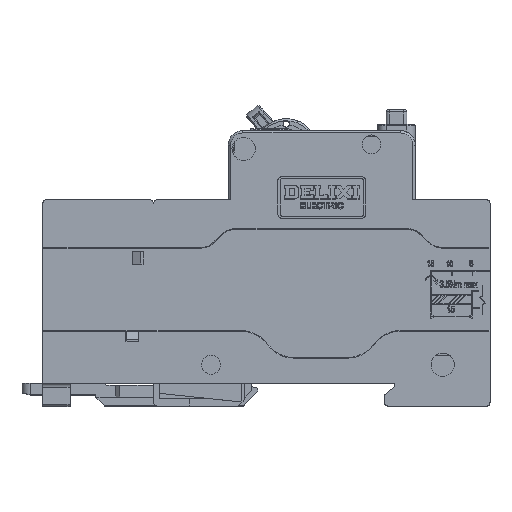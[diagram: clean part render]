
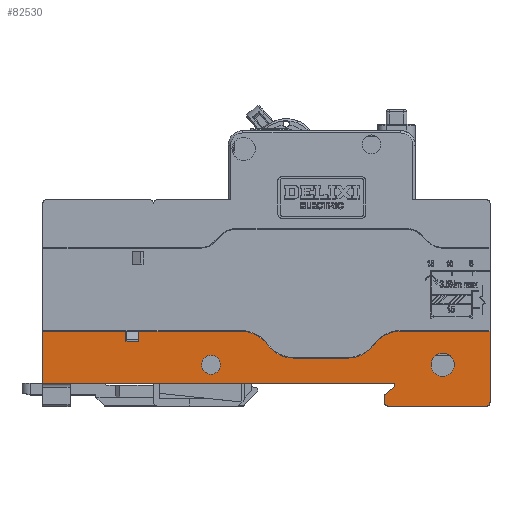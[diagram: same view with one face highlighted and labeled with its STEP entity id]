
A CAD part, top view. The second image highlights one B-rep face of the part: STEP entity #82530.
In plain terms, the highlighted planar face has unit normal (0, 0, 1).
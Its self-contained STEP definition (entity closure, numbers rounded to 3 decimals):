
#1783=DIRECTION('',(0.,-1.,0.));
#1784=VECTOR('',#1783,0.8);
#1785=CARTESIAN_POINT('',(84.957,5.5,0.));
#1786=LINE('',#1785,#1784);
#8298=DIRECTION('',(-1.,0.,0.));
#8299=VECTOR('',#8298,24.326);
#8300=CARTESIAN_POINT('',(48.083,18.,0.));
#8301=LINE('',#8300,#8299);
#8306=DIRECTION('',(-1.,0.,0.));
#8307=VECTOR('',#8306,84.2);
#8308=CARTESIAN_POINT('',(84.957,5.5,0.));
#8309=LINE('',#8308,#8307);
#8310=DIRECTION('',(0.,1.,0.));
#8311=VECTOR('',#8310,12.5);
#8312=CARTESIAN_POINT('',(0.757,5.5,0.));
#8313=LINE('',#8312,#8311);
#8314=DIRECTION('',(1.,0.,0.));
#8315=VECTOR('',#8314,19.9);
#8316=CARTESIAN_POINT('',(0.757,18.,0.));
#8317=LINE('',#8316,#8315);
#8318=CARTESIAN_POINT('',(48.083,10.,0.));
#8319=DIRECTION('',(0.,0.,-1.));
#8320=DIRECTION('',(0.,1.,0.));
#8321=AXIS2_PLACEMENT_3D('',#8318,#8319,#8320);
#8323=CARTESIAN_POINT('',(60.957,19.5,0.));
#8324=DIRECTION('',(0.,0.,1.));
#8325=DIRECTION('',(-0.805,-0.594,0.));
#8326=AXIS2_PLACEMENT_3D('',#8323,#8324,#8325);
#8328=DIRECTION('',(1.,0.,0.));
#8329=VECTOR('',#8328,12.726);
#8330=CARTESIAN_POINT('',(60.957,11.5,0.));
#8331=LINE('',#8330,#8329);
#8332=CARTESIAN_POINT('',(73.683,19.5,0.));
#8333=DIRECTION('',(0.,0.,1.));
#8334=DIRECTION('',(0.,-1.,0.));
#8335=AXIS2_PLACEMENT_3D('',#8332,#8333,#8334);
#8337=CARTESIAN_POINT('',(86.557,10.,0.));
#8338=DIRECTION('',(0.,0.,-1.));
#8339=DIRECTION('',(-0.805,0.594,0.));
#8340=AXIS2_PLACEMENT_3D('',#8337,#8338,#8339);
#8342=DIRECTION('',(1.,0.,0.));
#8343=VECTOR('',#8342,21.3);
#8344=CARTESIAN_POINT('',(86.557,18.,0.));
#8345=LINE('',#8344,#8343);
#8346=DIRECTION('',(0.,-1.,0.));
#8347=VECTOR('',#8346,17.);
#8348=CARTESIAN_POINT('',(107.857,18.,0.));
#8349=LINE('',#8348,#8347);
#8350=CARTESIAN_POINT('',(106.857,1.,0.));
#8351=DIRECTION('',(0.,0.,-1.));
#8352=DIRECTION('',(1.,0.,0.));
#8353=AXIS2_PLACEMENT_3D('',#8350,#8351,#8352);
#8355=DIRECTION('',(-1.,0.,0.));
#8356=VECTOR('',#8355,23.3);
#8357=CARTESIAN_POINT('',(106.857,0.,0.));
#8358=LINE('',#8357,#8356);
#8359=CARTESIAN_POINT('',(83.557,1.,0.));
#8360=DIRECTION('',(0.,0.,-1.));
#8361=DIRECTION('',(0.,-1.,0.));
#8362=AXIS2_PLACEMENT_3D('',#8359,#8360,#8361);
#8364=DIRECTION('',(0.,1.,0.));
#8365=VECTOR('',#8364,1.686);
#8366=CARTESIAN_POINT('',(82.557,1.,0.));
#8367=LINE('',#8366,#8365);
#8368=DIRECTION('',(0.766,0.643,0.));
#8369=VECTOR('',#8368,3.133);
#8370=CARTESIAN_POINT('',(82.557,2.686,0.));
#8371=LINE('',#8370,#8369);
#8372=CARTESIAN_POINT('',(96.557,9.9,0.));
#8373=DIRECTION('',(0.,0.,1.));
#8374=DIRECTION('',(1.,0.,0.));
#8375=AXIS2_PLACEMENT_3D('',#8372,#8373,#8374);
#8377=CARTESIAN_POINT('',(96.557,9.9,0.));
#8378=DIRECTION('',(0.,0.,1.));
#8379=DIRECTION('',(-1.,0.,0.));
#8380=AXIS2_PLACEMENT_3D('',#8377,#8378,#8379);
#8382=CARTESIAN_POINT('',(41.057,9.9,0.));
#8383=DIRECTION('',(0.,0.,1.));
#8384=DIRECTION('',(1.,0.,0.));
#8385=AXIS2_PLACEMENT_3D('',#8382,#8383,#8384);
#8387=CARTESIAN_POINT('',(41.057,9.9,0.));
#8388=DIRECTION('',(0.,0.,1.));
#8389=DIRECTION('',(-1.,0.,0.));
#8390=AXIS2_PLACEMENT_3D('',#8387,#8388,#8389);
#41656=DIRECTION('',(0.,1.,0.));
#41657=VECTOR('',#41656,2.5);
#41658=CARTESIAN_POINT('',(20.657,15.5,0.));
#41659=LINE('',#41658,#41657);
#41692=DIRECTION('',(0.,-1.,0.));
#41693=VECTOR('',#41692,2.5);
#41694=CARTESIAN_POINT('',(23.757,18.,0.));
#41695=LINE('',#41694,#41693);
#41720=DIRECTION('',(-1.,0.,0.));
#41721=VECTOR('',#41720,3.1);
#41722=CARTESIAN_POINT('',(23.757,15.5,0.));
#41723=LINE('',#41722,#41721);
#57823=CARTESIAN_POINT('',(48.083,18.,0.));
#57824=CARTESIAN_POINT('',(54.52,14.75,0.));
#57825=VERTEX_POINT('',#57823);
#57826=VERTEX_POINT('',#57824);
#57827=CARTESIAN_POINT('',(60.957,11.5,0.));
#57828=VERTEX_POINT('',#57827);
#57829=CARTESIAN_POINT('',(73.683,11.5,0.));
#57830=VERTEX_POINT('',#57829);
#57831=CARTESIAN_POINT('',(80.12,14.75,0.));
#57832=VERTEX_POINT('',#57831);
#57833=CARTESIAN_POINT('',(86.557,18.,0.));
#57834=VERTEX_POINT('',#57833);
#57835=CARTESIAN_POINT('',(107.857,18.,0.));
#57836=VERTEX_POINT('',#57835);
#57837=CARTESIAN_POINT('',(107.857,1.,0.));
#57838=VERTEX_POINT('',#57837);
#57839=CARTESIAN_POINT('',(106.857,0.,0.));
#57840=VERTEX_POINT('',#57839);
#57841=CARTESIAN_POINT('',(83.557,0.,0.));
#57842=VERTEX_POINT('',#57841);
#57843=CARTESIAN_POINT('',(82.557,1.,0.));
#57844=VERTEX_POINT('',#57843);
#57845=CARTESIAN_POINT('',(82.557,2.686,0.));
#57846=VERTEX_POINT('',#57845);
#57847=CARTESIAN_POINT('',(84.957,4.7,0.));
#57848=VERTEX_POINT('',#57847);
#57849=CARTESIAN_POINT('',(84.957,5.5,0.));
#57850=VERTEX_POINT('',#57849);
#57851=CARTESIAN_POINT('',(99.357,9.9,0.));
#57852=CARTESIAN_POINT('',(93.757,9.9,0.));
#57853=VERTEX_POINT('',#57851);
#57854=VERTEX_POINT('',#57852);
#57855=CARTESIAN_POINT('',(43.307,9.9,0.));
#57856=CARTESIAN_POINT('',(38.807,9.9,0.));
#57857=VERTEX_POINT('',#57855);
#57858=VERTEX_POINT('',#57856);
#60736=CARTESIAN_POINT('',(0.757,5.5,0.));
#60737=VERTEX_POINT('',#60736);
#61016=CARTESIAN_POINT('',(0.757,18.,0.));
#61017=VERTEX_POINT('',#61016);
#61666=CARTESIAN_POINT('',(20.657,18.,0.));
#61667=VERTEX_POINT('',#61666);
#61668=CARTESIAN_POINT('',(20.657,15.5,0.));
#61669=VERTEX_POINT('',#61668);
#61670=CARTESIAN_POINT('',(23.757,15.5,0.));
#61671=VERTEX_POINT('',#61670);
#61672=CARTESIAN_POINT('',(23.757,18.,0.));
#61673=VERTEX_POINT('',#61672);
#82477=CARTESIAN_POINT('',(73.457,58.5,0.));
#82478=DIRECTION('',(0.,0.,1.));
#82479=DIRECTION('',(1.,0.,0.));
#82480=AXIS2_PLACEMENT_3D('',#82477,#82478,#82479);
#82481=PLANE('',#82480);
#82482=ORIENTED_EDGE('',*,*,#74467,.T.);
#82484=ORIENTED_EDGE('',*,*,#82483,.T.);
#82486=ORIENTED_EDGE('',*,*,#82485,.T.);
#82488=ORIENTED_EDGE('',*,*,#82487,.F.);
#82490=ORIENTED_EDGE('',*,*,#82489,.F.);
#82492=ORIENTED_EDGE('',*,*,#82491,.F.);
#82493=ORIENTED_EDGE('',*,*,#82467,.F.);
#82495=ORIENTED_EDGE('',*,*,#82494,.T.);
#82497=ORIENTED_EDGE('',*,*,#82496,.T.);
#82499=ORIENTED_EDGE('',*,*,#82498,.T.);
#82501=ORIENTED_EDGE('',*,*,#82500,.T.);
#82503=ORIENTED_EDGE('',*,*,#82502,.T.);
#82505=ORIENTED_EDGE('',*,*,#82504,.T.);
#82506=ORIENTED_EDGE('',*,*,#74762,.T.);
#82507=ORIENTED_EDGE('',*,*,#74741,.T.);
#82508=ORIENTED_EDGE('',*,*,#74727,.T.);
#82510=ORIENTED_EDGE('',*,*,#82509,.T.);
#82512=ORIENTED_EDGE('',*,*,#82511,.T.);
#82514=ORIENTED_EDGE('',*,*,#82513,.T.);
#82515=ORIENTED_EDGE('',*,*,#74612,.F.);
#82516=EDGE_LOOP('',(#82482,#82484,#82486,#82488,#82490,#82492,#82493,#82495,
#82497,#82499,#82501,#82503,#82505,#82506,#82507,#82508,#82510,#82512,#82514,
#82515));
#82517=FACE_OUTER_BOUND('',#82516,.F.);
#82519=ORIENTED_EDGE('',*,*,#82518,.T.);
#82521=ORIENTED_EDGE('',*,*,#82520,.T.);
#82522=EDGE_LOOP('',(#82519,#82521));
#82523=FACE_BOUND('',#82522,.F.);
#82525=ORIENTED_EDGE('',*,*,#82524,.T.);
#82527=ORIENTED_EDGE('',*,*,#82526,.T.);
#82528=EDGE_LOOP('',(#82525,#82527));
#82529=FACE_BOUND('',#82528,.F.);
#82530=ADVANCED_FACE('',(#82517,#82523,#82529),#82481,.T.);
#8322=CIRCLE('',#8321,8.);
#8327=CIRCLE('',#8326,8.);
#8336=CIRCLE('',#8335,8.);
#8341=CIRCLE('',#8340,8.);
#8354=CIRCLE('',#8353,1.);
#8363=CIRCLE('',#8362,1.);
#8376=CIRCLE('',#8375,2.8);
#8381=CIRCLE('',#8380,2.8);
#8386=CIRCLE('',#8385,2.25);
#8391=CIRCLE('',#8390,2.25);
#74467=EDGE_CURVE('',#57850,#60737,#8309,.T.);
#74612=EDGE_CURVE('',#57850,#57848,#1786,.T.);
#74727=EDGE_CURVE('',#57840,#57842,#8358,.T.);
#74741=EDGE_CURVE('',#57838,#57840,#8354,.T.);
#74762=EDGE_CURVE('',#57836,#57838,#8349,.T.);
#82467=EDGE_CURVE('',#57825,#61673,#8301,.T.);
#82483=EDGE_CURVE('',#60737,#61017,#8313,.T.);
#82485=EDGE_CURVE('',#61017,#61667,#8317,.T.);
#82487=EDGE_CURVE('',#61669,#61667,#41659,.T.);
#82489=EDGE_CURVE('',#61671,#61669,#41723,.T.);
#82491=EDGE_CURVE('',#61673,#61671,#41695,.T.);
#82494=EDGE_CURVE('',#57825,#57826,#8322,.T.);
#82496=EDGE_CURVE('',#57826,#57828,#8327,.T.);
#82498=EDGE_CURVE('',#57828,#57830,#8331,.T.);
#82500=EDGE_CURVE('',#57830,#57832,#8336,.T.);
#82502=EDGE_CURVE('',#57832,#57834,#8341,.T.);
#82504=EDGE_CURVE('',#57834,#57836,#8345,.T.);
#82509=EDGE_CURVE('',#57842,#57844,#8363,.T.);
#82511=EDGE_CURVE('',#57844,#57846,#8367,.T.);
#82513=EDGE_CURVE('',#57846,#57848,#8371,.T.);
#82518=EDGE_CURVE('',#57853,#57854,#8376,.T.);
#82520=EDGE_CURVE('',#57854,#57853,#8381,.T.);
#82524=EDGE_CURVE('',#57857,#57858,#8386,.T.);
#82526=EDGE_CURVE('',#57858,#57857,#8391,.T.);
